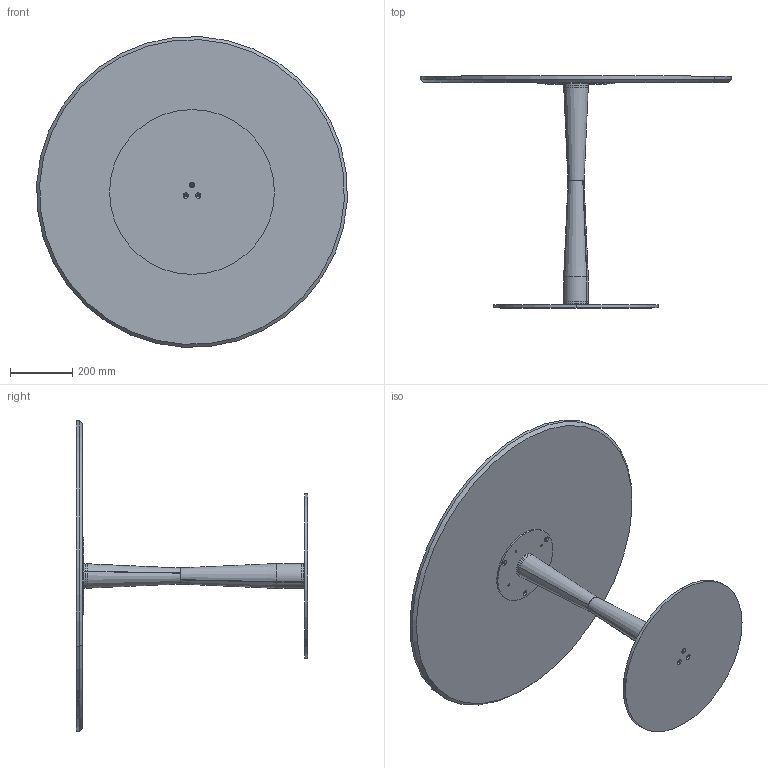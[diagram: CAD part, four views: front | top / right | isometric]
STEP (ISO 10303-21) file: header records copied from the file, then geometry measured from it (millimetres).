
FILE_DESCRIPTION (( 'STEP AP203' ), '1' );
FILE_NAME ('FI30M.STEP', '2024-08-08T08:00:35', ( '' ), ( '' ), 'SwSTEP 2.0', 'SolidWorks 2022', '' );
FILE_SCHEMA (( 'CONFIG_CONTROL_DESIGN' ));
Length unit declared in the file: millimetre
Products named in the file (8): FIL000000_03-00-Piastra per Tubi conificati FILU; FI30M; M0X-00- D. piani marmo_D.1000; CBS200000PST-00-CONTROPIASTRA PER PIASTRA D.25cm GREZZO_250; FIL000000_01-00-Tubo Conificato superiore_tagliato; CBS000000BAS-00-BISTRO PIASTRA INFERIORE_D.530; FIL000000COL-01-FILU'' COLONNA CENTRALE; FIL000000_02-00-Tubo Conificato inferiore_tagliato
Assembly tree (8 placements, depth 3):
  FI30M
    CBS000000BAS-00-BISTRO PIASTRA INFERIORE_D.530
    CBS200000PST-00-CONTROPIASTRA PER PIASTRA D.25cm GREZZO_250
    FIL000000COL-01-FILU'' COLONNA CENTRALE
      FIL000000_02-00-Tubo Conificato inferiore_tagliato
      FIL000000_01-00-Tubo Conificato superiore_tagliato
      FIL000000_03-00-Piastra per Tubi conificati FILU  x2
    M0X-00- D. piani marmo_D.1000
Bounding box: 998.53 x 745 x 998.53 mm (x, y, z)
Volume: 18329972.2 mm3; surface area: 2492247.7 mm2
Topology: 7 solids, 7 shells, 120 faces, 278 edges, 168 vertices
Faces by surface type: cylinder 62, cone 44, plane 14
Entity records: 4052 total; most frequent: DIRECTION 638, CARTESIAN_POINT 520, ORIENTED_EDGE 492, AXIS2_PLACEMENT_3D 270, EDGE_CURVE 246, EDGE_LOOP 152, VERTEX_POINT 152, CIRCLE 148
